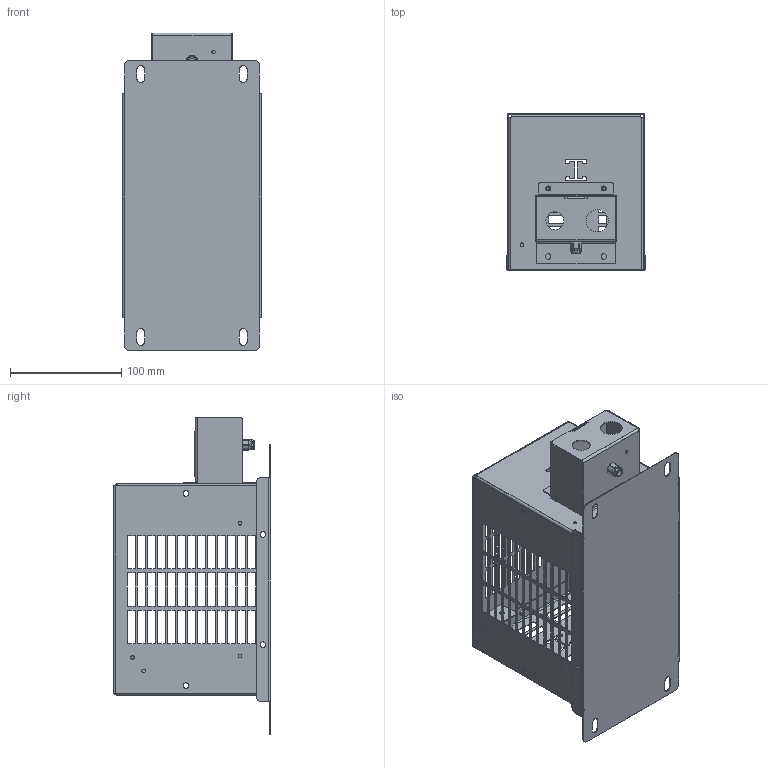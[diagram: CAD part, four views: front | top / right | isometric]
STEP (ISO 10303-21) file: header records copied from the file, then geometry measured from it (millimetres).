
FILE_DESCRIPTION(/* description */ (''),/* implementation_level */ '2;1');
FILE_NAME(/* name */ 'C:\_Vault\Dati\CATALOGO\RME\CT MARZO 2015\Assieme1-2L\Assieme1S.stp',/* time_stamp */ '2017-11-10T09:50:24+01:00',/* author */ ('Diego'),/* organization */ ('Fairfild Srl'),/* preprocessor_version */ 'ST-DEVELOPER v16.5',/* originating_system */ 'Autodesk Inventor 2017',/* authorisation */ '');
FILE_SCHEMA (('CONFIG_CONTROL_DESIGN'));
Products named in the file (1): Assieme1S
Bounding box: 124.5 x 140.9 x 285.3 mm (x, y, z)
Volume: 130229.2 mm3; surface area: 300159.4 mm2
Topology: 3 solids, 3 shells, 2180 faces, 6101 edges, 4060 vertices
Faces by surface type: plane 1393, bspline 640, cylinder 138, cone 8, torus 1
Full cylindrical faces by diameter (mm): 3 x3, 3.2 x10, 3.3 x2, 3.5 x1, 4.2 x3, 4.5 x3, 5 x23, 6 x1, 7.5 x1, 16 x1, 19 x1, 20 x1
Entity records: 75294 total; most frequent: CARTESIAN_POINT 20637, ORIENTED_EDGE 12088, DIRECTION 8116, EDGE_CURVE 6044, LINE 4458, VECTOR 4458, VERTEX_POINT 4056, EDGE_LOOP 2716
